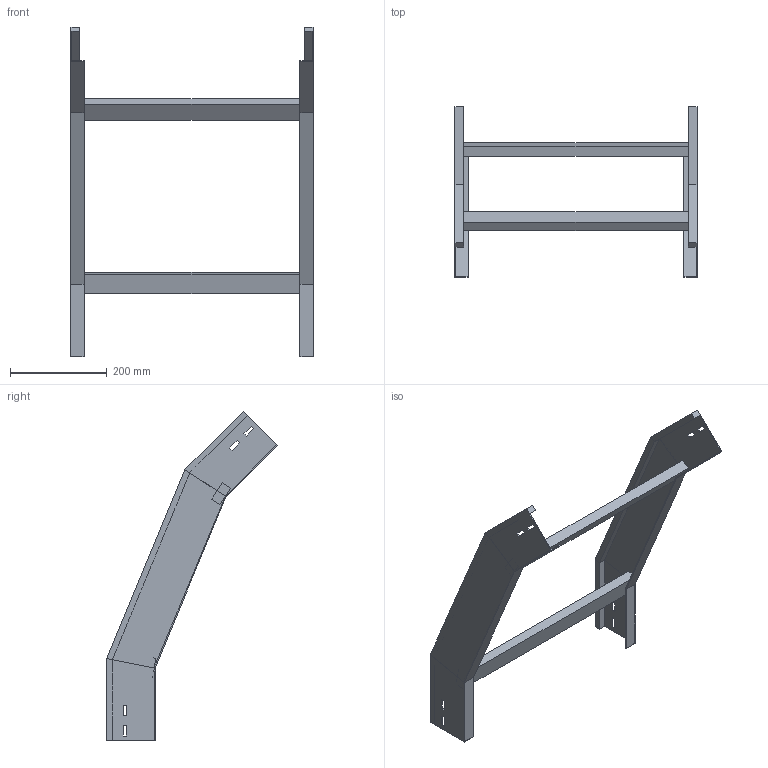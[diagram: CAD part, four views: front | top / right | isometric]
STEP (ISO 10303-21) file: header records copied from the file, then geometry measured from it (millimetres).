
FILE_DESCRIPTION (( 'STEP AP214' ), '1' );
FILE_NAME ('34B5D500.step', '2025-02-21T14:51:05', ( '' ), ( '' ), 'SwSTEP 2.0', 'SolidWorks 2023', '' );
FILE_SCHEMA (( 'AUTOMOTIVE_DESIGN' ));
Length unit declared in the file: millimetre
Products named in the file (3): LONGH.DISCESA_45°_H100_R500; 34B5D500; TRAVERSINO_500
Assembly tree (5 placements, depth 2):
  34B5D500
    LONGH.DISCESA_45°_H100_R500  x2
    TRAVERSINO_500  x3
Bounding box: 500 x 352.63 x 680.62 mm (x, y, z)
Volume: 1851300.3 mm3; surface area: 596913.4 mm2
Topology: 5 solids, 5 shells, 102 faces, 244 edges, 152 vertices
Faces by surface type: plane 102
Entity records: 1480 total; most frequent: CARTESIAN_POINT 244, ORIENTED_EDGE 232, DIRECTION 228, EDGE_CURVE 116, VECTOR 116, LINE 116, VERTEX_POINT 72, AXIS2_PLACEMENT_3D 56
